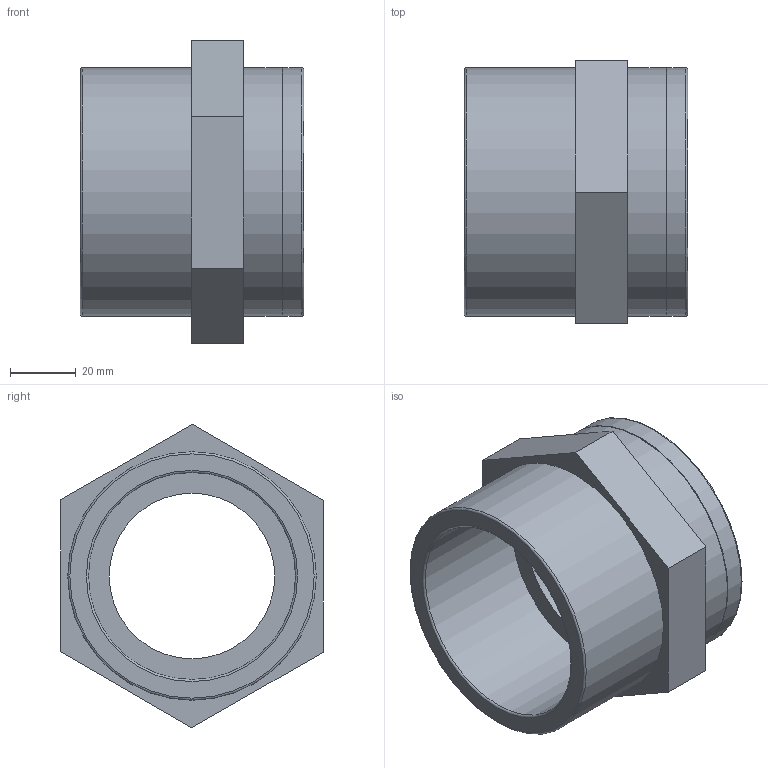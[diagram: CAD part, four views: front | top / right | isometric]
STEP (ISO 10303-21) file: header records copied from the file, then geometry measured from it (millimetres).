
FILE_DESCRIPTION(/* description */ ('PLASSON AD. SOCKET REINF.PVC 63-2"'),/* implementation_level */ '2;1');
FILE_NAME(/* name */ 'C:\Dropbox\KIMPROJECTS-Inventor\99-16-3568-Processing\PVC Catalog 2017\057102\057102063020.ipt.stp',/* time_stamp */ '2017-12-07T16:05:27+02:00',/* author */ ('KIM'),/* organization */ (''),/* preprocessor_version */ 'ST-DEVELOPER v15.6',/* originating_system */ 'Autodesk Inventor 2015',/* authorisation */ '');
FILE_SCHEMA (('AUTOMOTIVE_DESIGN { 1 0 10303 214 3 1 1 }'));
Length unit declared in the file: millimetre
Products named in the file (1): 057102063020
Bounding box: 68 x 80.13 x 92.38 mm (x, y, z)
Volume: 130042.7 mm3; surface area: 36450.9 mm2
Topology: 1 solids, 1 shells, 24 faces, 47 edges, 29 vertices
Faces by surface type: plane 12, cylinder 6, torus 4, cone 2
Full cylindrical faces by diameter (mm): 50.4 x1, 56.656 x1, 63 x1, 75.6 x3
Entity records: 580 total; most frequent: DIRECTION 102, CARTESIAN_POINT 89, ORIENTED_EDGE 70, EDGE_LOOP 42, AXIS2_PLACEMENT_3D 42, EDGE_CURVE 35, VERTEX_POINT 29, FACE_OUTER_BOUND 24
